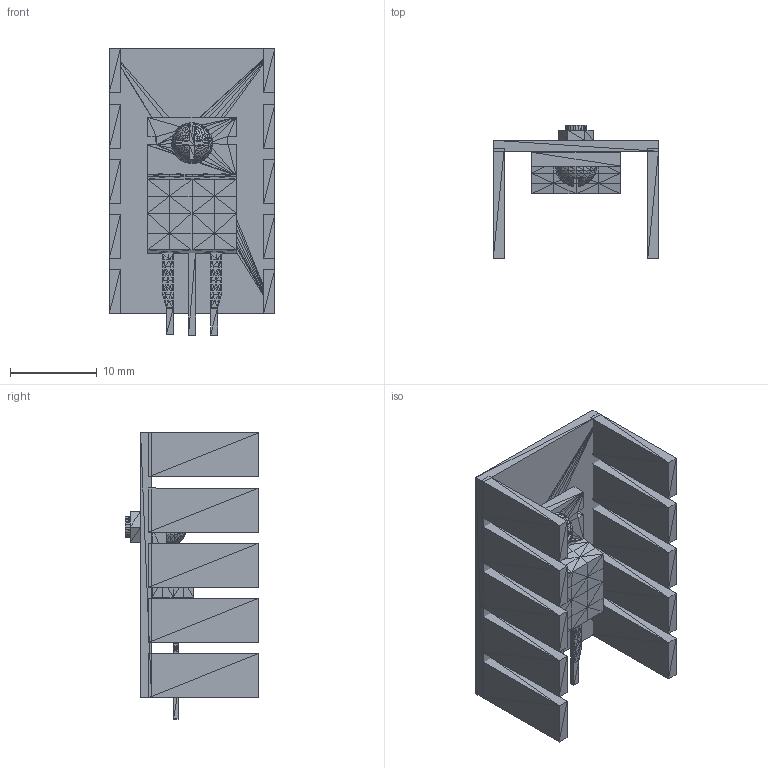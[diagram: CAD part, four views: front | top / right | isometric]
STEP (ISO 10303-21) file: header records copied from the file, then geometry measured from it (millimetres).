
FILE_DESCRIPTION(('HOOPS Exchange Step'),'2;1');
FILE_NAME('***.stp');
FILE_SCHEMA( ('AP242_MANAGED_MODEL_BASED_3D_ENGINEERING_MIM_LF {1 0 10303 442 1 1 4 }') );
Length unit declared in the file: inch
Products named in the file (23): TO-220WHTSNK_2; TO-220WHTSNK_3; TO-220WHTSNK_4; TO-220WHTSNK_5; TO-220WHTSNK_6; TO-220WHTSNK_7; TO-220WHTSNK_8; TO-220WHTSNK_9; TO-220WHTSNK_10; TO-220WHTSNK_11; TO-220WHTSNK_12; TO-220WHTSNK_13; TO-220WHTSNK_14; TO-220WHTSNK_15; TO-220WHTSNK_16; TO-220WHTSNK_17; TO-220WHTSNK_18; TO-220WHTSNK_19; TO-220WHTSNK_20; TO-220WHTSNK_21; TO-220WHTSNK_22; TO-220WHTSNK_23; TO-220WHTSNK
Assembly tree (22 placements, depth 2):
  TO-220WHTSNK
    TO-220WHTSNK_2
    TO-220WHTSNK_3
    TO-220WHTSNK_4
    TO-220WHTSNK_5
    TO-220WHTSNK_6
    TO-220WHTSNK_7
    TO-220WHTSNK_8
    TO-220WHTSNK_9
    TO-220WHTSNK_10
    TO-220WHTSNK_11
    TO-220WHTSNK_12
    TO-220WHTSNK_13
    TO-220WHTSNK_14
    TO-220WHTSNK_15
    TO-220WHTSNK_16
    TO-220WHTSNK_17
    TO-220WHTSNK_18
    TO-220WHTSNK_19
    TO-220WHTSNK_20
    TO-220WHTSNK_21
    TO-220WHTSNK_22
    TO-220WHTSNK_23
Bounding box: 19.05 x 15.34 x 32.96 mm (x, y, z)
Surface area: 7819.8 mm2 (no closed solid volume)
Topology: 0 solids, 3084 shells, 3084 faces, 4752 edges, 3788 vertices
Faces by surface type: plane 3084
Entity records: 69456 total; most frequent: CARTESIAN_POINT 11670, DIRECTION 11012, ORIENTED_EDGE 9252, VECTOR 4752, LINE 4752, EDGE_CURVE 4752, VERTEX_POINT 3788, AXIS2_PLACEMENT_3D 3130
